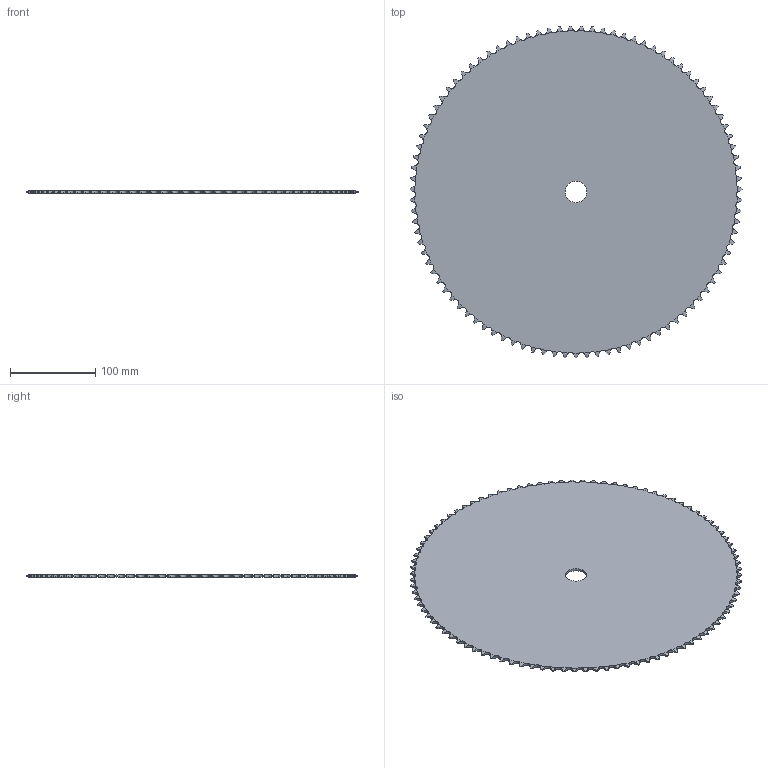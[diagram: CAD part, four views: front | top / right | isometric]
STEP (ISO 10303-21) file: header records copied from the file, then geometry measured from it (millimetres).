
FILE_DESCRIPTION((''),'2;1');
FILE_NAME('500-201-0095_PRT','2021-02-12T',('Brieden'),('Brieden'),'PRO/ENGINEER BY PARAMETRIC TECHNOLOGY CORPORATION, 2010160','PRO/ENGINEER BY PARAMETRIC TECHNOLOGY CORPORATION, 2010160','');
FILE_SCHEMA(('AUTOMOTIVE_DESIGN { 1 0 10303 214 1 1 1 1 }'));
Length unit declared in the file: millimetre
Products named in the file (1): 500-201-0095_PRT
Bounding box: 389.25 x 389.19 x 3 mm (x, y, z)
Volume: 340042.4 mm3; surface area: 232171.1 mm2
Topology: 1 solids, 1 shells, 574 faces, 1716 edges, 1144 vertices
Faces by surface type: cylinder 382, torus 190, plane 2
Entity records: 28504 total; most frequent: CARTESIAN_POINT 8765, ORIENTED_EDGE 3432, DIRECTION 2678, PRESENTATION_STYLE_ASSIGNMENT 1717, STYLED_ITEM 1717, CURVE_STYLE 1716, EDGE_CURVE 1716, AXIS2_PLACEMENT_3D 1148
